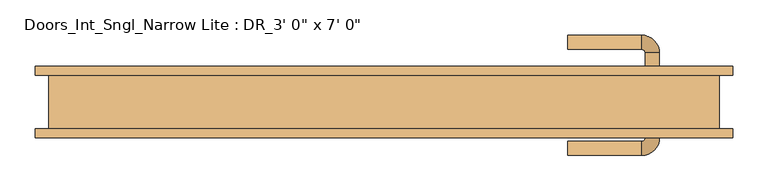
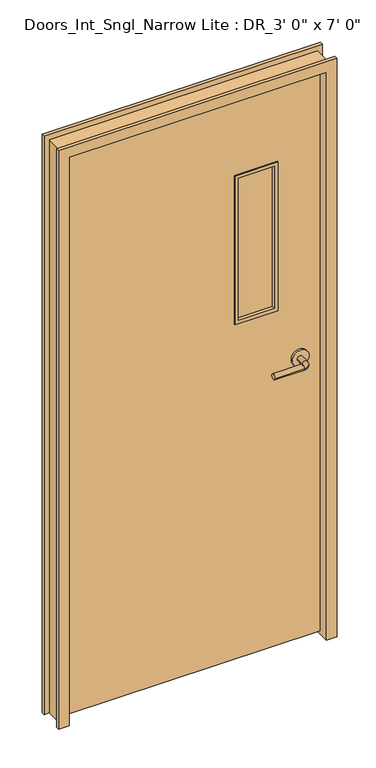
"""IFC4 building model written with IfcOpenShell, lengths in millimetres: door geometry."""

from ifc_helpers import new_model, si_unit, point, frame, frame_2d, origin, place, context, project, spatial, polyline, circle_curve, ellipse_curve, trimmed, segment, composite_curve, outline, extrude, faceted_brep, source, transform, mapped, element, save
from ifc_brep_helpers import plane_surface, cylinder_surface, revolved_surface, advanced_brep


def door_2a92d290(model_context):
    return source(origin(), model_context, "Body", "SolidModel", [
        advanced_brep(
        [(391.0, -20.7, 1066.8), (371.0, -20.7, 1066.8), (391.0, -50.7, 1066.8), (371.0, -50.7, 1066.8), (366.0, -55.7, 1066.8), (366.0, -75.7, 1066.8), (261.0, -75.7, 1066.8), (261.0, -55.7, 1066.8)],
        [
            (0, 1, circle_curve(frame((381.0, -20.7, 1066.8), z_axis=(0.0, 1.0, 0.0), x_axis=(-0.9999999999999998, 0.0, 0.0)), 10.0)),
            (1, 0, circle_curve(frame((381.0, -20.7, 1066.8), z_axis=(0.0, 1.0, 0.0), x_axis=(-0.9999999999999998, 0.0, 0.0)), 10.0)),
            (0, 2),
            (2, 3, circle_curve(frame((381.0, -50.7, 1066.8), z_axis=(0.0, 1.0, 0.0), x_axis=(-0.9999999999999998, 0.0, 0.0)), 10.0)),
            (3, 1),
            (3, 2, circle_curve(frame((381.0, -50.7, 1066.8), z_axis=(0.0, 1.0, 0.0), x_axis=(-0.9999999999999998, 0.0, 0.0)), 10.0)),
            (4, 3, circle_curve(frame((366.0, -50.7, 1066.8), z_axis=(0.0, 0.0, 1.0), x_axis=(0.9999999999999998, 0.0, 0.0)), 5.0)),
            (2, 5, circle_curve(frame((366.0, -50.7, 1066.8), z_axis=(0.0, 0.0, -1.0), x_axis=(0.9999999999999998, 0.0, 0.0)), 25.0)),
            (5, 4, circle_curve(frame((366.0, -65.7, 1066.8), z_axis=(0.9999999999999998, 0.0, 0.0), x_axis=(0.0, 0.9999999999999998, 0.0)), 10.0)),
            (4, 5, circle_curve(frame((366.0, -65.7, 1066.8), z_axis=(0.9999999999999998, 0.0, 0.0), x_axis=(0.0, 0.9999999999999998, 0.0)), 10.0)),
            (6, 7, circle_curve(frame((261.0, -65.7, 1066.8), z_axis=(-1.0, 0.0, 0.0), x_axis=(0.0, 0.9999999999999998, 0.0)), 10.0)),
            (7, 6, circle_curve(frame((261.0, -65.7, 1066.8), z_axis=(-1.0, 0.0, 0.0), x_axis=(0.0, 0.9999999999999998, 0.0)), 10.0)),
            (5, 6),
            (7, 4),
        ],
        [
            plane_surface(frame((381.0, -20.7, 1066.8), z_axis=(0.0, 1.0, 0.0), x_axis=(0.0, 0.0, 1.0))),
            cylinder_surface(frame((381.0, -20.7, 1066.8), z_axis=(0.0, 0.9999999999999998, 0.0), x_axis=(-0.9999999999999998, 0.0, 0.0)), 10.0),
            revolved_surface(trimmed(ellipse_curve(frame((381.0, -50.7, 1066.8), z_axis=(0.0, 0.9999999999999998, 0.0), x_axis=(-0.9999999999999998, 0.0, 0.0)), 10.0, 10.0), [point((391.0, -50.7, 1066.8))], [point((371.0, -50.7, 1066.8))], True, "CARTESIAN"), (366.0, -50.7, 1066.8), (0.0, 0.0, -1.0)),
            revolved_surface(trimmed(ellipse_curve(frame((381.0, -50.7, 1066.8), z_axis=(0.0, 0.9999999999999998, 0.0), x_axis=(-0.9999999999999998, 0.0, 0.0)), 10.0, 10.0), [point((371.0, -50.7, 1066.8))], [point((391.0, -50.7, 1066.8))], True, "CARTESIAN"), (366.0, -50.7, 1066.8), (0.0, 0.0, -1.0)),
            plane_surface(frame((261.0, -65.7, 1066.8), z_axis=(-1.0, 0.0, 0.0), x_axis=(0.0, 0.0, 1.0))),
            cylinder_surface(frame((366.0, -65.7, 1066.8), z_axis=(0.9999999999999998, 0.0, 0.0), x_axis=(0.0, 0.9999999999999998, 0.0)), 10.0),
        ],
        [
            (0, [[1, 2]]),
            (1, [[-1, 3, 4, 5]]),
            (1, [[-2, -5, 6, -3]]),
            (2, [[7, -4, 8, 9]]),
            (3, [[-8, -6, -7, 10]]),
            (4, [[11, 12]]),
            (5, [[-9, 13, -12, 14]]),
            (5, [[-10, -14, -11, -13]]),
        ],
    ),
        extrude(outline(composite_curve([segment(trimmed(circle_curve(frame_2d((1066.8, 383.5)), 30.0), [point((1066.8, 413.5))], [point((1066.8, 353.5))], False, "CARTESIAN"), True, "CONTINUOUS"), segment(trimmed(circle_curve(frame_2d((1066.8, 383.5)), 30.0), [point((1066.8, 353.5))], [point((1066.8, 413.5))], False, "CARTESIAN"), True, "CONTINUOUS")], self_intersect=False)), frame((0.0, -20.7, 0.0), z_axis=(0.0, 1.0, 0.0), x_axis=(0.0, 0.0, 1.0)), (0.0, 0.0, 1.0), 8.0),
        advanced_brep(
        [(391.0, 39.75, 1066.8), (371.0, 39.75, 1066.8), (371.0, 69.75, 1066.8), (391.0, 69.75, 1066.8), (366.0, 74.75, 1066.8), (366.0, 94.75, 1066.8), (261.0, 94.75, 1066.8), (261.0, 74.75, 1066.8)],
        [
            (0, 1, circle_curve(frame((381.0, 39.75, 1066.8), z_axis=(0.0, -1.0, 0.0), x_axis=(-0.9999999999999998, 0.0, 0.0)), 10.0)),
            (1, 0, circle_curve(frame((381.0, 39.75, 1066.8), z_axis=(0.0, -1.0, 0.0), x_axis=(-0.9999999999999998, 0.0, 0.0)), 10.0)),
            (1, 2),
            (2, 3, circle_curve(frame((381.0, 69.75, 1066.8), z_axis=(0.0, -1.0, 0.0), x_axis=(-0.9999999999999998, 0.0, 0.0)), 10.0)),
            (3, 0),
            (3, 2, circle_curve(frame((381.0, 69.75, 1066.8), z_axis=(0.0, -1.0, 0.0), x_axis=(-0.9999999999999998, 0.0, 0.0)), 10.0)),
            (4, 5, circle_curve(frame((366.0, 84.75, 1066.8), z_axis=(0.9999999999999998, 0.0, 0.0), x_axis=(0.0, -0.9999999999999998, 0.0)), 10.0)),
            (5, 3, circle_curve(frame((366.0, 69.75, 1066.8), z_axis=(0.0, 0.0, -1.0), x_axis=(0.9999999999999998, 0.0, 0.0)), 25.0)),
            (2, 4, circle_curve(frame((366.0, 69.75, 1066.8), z_axis=(0.0, 0.0, 1.0), x_axis=(0.9999999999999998, 0.0, 0.0)), 5.0)),
            (5, 4, circle_curve(frame((366.0, 84.75, 1066.8), z_axis=(0.9999999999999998, 0.0, 0.0), x_axis=(0.0, -0.9999999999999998, 0.0)), 10.0)),
            (6, 7, circle_curve(frame((261.0, 84.75, 1066.8), z_axis=(-1.0, 0.0, 0.0), x_axis=(0.0, -0.9999999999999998, 0.0)), 10.0)),
            (7, 6, circle_curve(frame((261.0, 84.75, 1066.8), z_axis=(-1.0, 0.0, 0.0), x_axis=(0.0, -0.9999999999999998, 0.0)), 10.0)),
            (4, 7),
            (6, 5),
        ],
        [
            plane_surface(frame((381.0, 39.75, 1066.8), z_axis=(0.0, -1.0, 0.0), x_axis=(0.0, 0.0, 1.0))),
            cylinder_surface(frame((381.0, 39.75, 1066.8), z_axis=(0.0, -0.9999999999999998, 0.0), x_axis=(-0.9999999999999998, 0.0, 0.0)), 10.0),
            revolved_surface(trimmed(ellipse_curve(frame((381.0, 69.75, 1066.8), z_axis=(0.0, 0.9999999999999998, 0.0), x_axis=(-0.9999999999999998, 0.0, 0.0)), 10.0, 10.0), [point((391.0, 69.75, 1066.8))], [point((371.0, 69.75, 1066.8))], True, "CARTESIAN"), (366.0, 69.75, 1066.8), (0.0, 0.0, -1.0)),
            revolved_surface(trimmed(ellipse_curve(frame((381.0, 69.75, 1066.8), z_axis=(0.0, 0.9999999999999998, 0.0), x_axis=(-0.9999999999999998, 0.0, 0.0)), 10.0, 10.0), [point((371.0, 69.75, 1066.8))], [point((391.0, 69.75, 1066.8))], True, "CARTESIAN"), (366.0, 69.75, 1066.8), (0.0, 0.0, -1.0)),
            plane_surface(frame((261.0, 84.75, 1066.8), z_axis=(-1.0, 0.0, 0.0), x_axis=(0.0, 0.0, 1.0))),
            cylinder_surface(frame((366.0, 84.75, 1066.8), z_axis=(0.9999999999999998, 0.0, 0.0), x_axis=(0.0, -0.9999999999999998, 0.0)), 10.0),
        ],
        [
            (0, [[1, 2]]),
            (1, [[3, 4, 5, -2]]),
            (1, [[-5, 6, -3, -1]]),
            (2, [[7, 8, -4, 9]]),
            (3, [[10, -9, -6, -8]]),
            (4, [[11, 12]]),
            (5, [[13, -11, 14, -7]]),
            (5, [[-14, -12, -13, -10]]),
        ],
    ),
        extrude(outline(composite_curve([segment(trimmed(circle_curve(frame_2d((1066.8, 383.5)), 30.0), [point((1066.8, 413.5))], [point((1066.8, 353.5))], False, "CARTESIAN"), True, "CONTINUOUS"), segment(trimmed(circle_curve(frame_2d((1066.8, 383.5)), 30.0), [point((1066.8, 353.5))], [point((1066.8, 413.5))], False, "CARTESIAN"), True, "CONTINUOUS")], self_intersect=False)), frame((0.0, 31.75, 0.0), z_axis=(0.0, 1.0, 0.0), x_axis=(0.0, 0.0, 1.0)), (0.0, 0.0, 1.0), 8.0),
        extrude(outline(polyline([(292.1, 22.225), (292.1, -3.175), (165.1, -3.175), (165.1, 22.225), (292.1, 22.225)])), frame((0.0, 0.0, 1282.7), z_axis=(0.0, 0.0, 1.0), x_axis=(1.0, 0.0, 0.0)), (0.0, 0.0, 1.0), 533.4),
        extrude(outline(polyline([(1270.0, 152.4), (1270.0, 304.8), (1828.8, 304.8), (1828.8, 152.4), (1270.0, 152.4)]), holes=[polyline([(1282.7, 165.1), (1816.1, 165.1), (1816.1, 292.1), (1282.7, 292.1), (1282.7, 165.1)])]), frame((0.0, -15.875, 0.0), z_axis=(0.0, 1.0, 0.0), x_axis=(0.0, 0.0, 1.0)), (0.0, 0.0, 1.0), 50.8),
        extrude(outline(polyline([(2133.6, 457.2), (2133.6, -457.2), (12.7, -457.2), (12.7, 457.2), (2133.6, 457.2)]), holes=[polyline([(1270.0, 152.4), (1828.8, 152.4), (1828.8, 304.8), (1270.0, 304.8), (1270.0, 152.4)])]), frame((0.0, -12.7, 0.0), z_axis=(0.0, 1.0, 0.0), x_axis=(0.0, 0.0, 1.0)), (0.0, 0.0, 1.0), 44.45),
        faceted_brep([(-457.2, 50.8, 0.0), (-457.2, -50.8, 0.0), (-495.3, -50.8, 0.0), (-495.3, -38.1, 0.0), (-476.25, -38.1, 0.0), (-476.25, 38.1, 0.0), (-495.3, 38.1, 0.0), (-495.3, 50.8, 0.0), (-495.3, 50.8, 2171.7), (495.3, 50.8, 2171.7), (495.3, 50.8, 0.0), (457.2, 50.8, 0.0), (457.2, 50.8, 2133.6), (-457.2, 50.8, 2133.6), (-495.3, 38.1, 2171.7), (-476.25, 38.1, 2152.65), (476.25, 38.1, 2152.65), (476.25, 38.1, 0.0), (495.3, 38.1, 0.0), (495.3, 38.1, 2171.7), (-476.25, -38.1, 2152.65), (-495.3, -38.1, 2171.7), (495.3, -38.1, 2171.7), (495.3, -38.1, 0.0), (476.25, -38.1, 0.0), (476.25, -38.1, 2152.65), (-495.3, -50.8, 2171.7), (-457.2, -50.8, 2133.6), (457.2, -50.8, 2133.6), (457.2, -50.8, 0.0), (495.3, -50.8, 0.0), (495.3, -50.8, 2171.7)], [[[0, 1, 2, 3, 4, 5, 6, 7]], [[7, 8, 9, 10, 11, 12, 13, 0]], [[6, 14, 8, 7]], [[5, 15, 16, 17, 18, 19, 14, 6]], [[4, 20, 15, 5]], [[3, 21, 22, 23, 24, 25, 20, 4]], [[2, 26, 21, 3]], [[1, 27, 28, 29, 30, 31, 26, 2]], [[0, 13, 27, 1]], [[12, 11, 29, 28]], [[11, 10, 18, 17, 24, 23, 30, 29]], [[19, 18, 10, 9]], [[31, 30, 23, 22]], [[25, 24, 17, 16]], [[20, 25, 16, 15]], [[13, 12, 28, 27]], [[14, 19, 9, 8]], [[26, 31, 22, 21]]]),
    ])


if __name__ == "__main__":
    model = new_model("IFC4")
    model_context = context("Model", 3, world=origin())
    ifc_project = project(units=[si_unit("LENGTHUNIT", "METRE", prefix="MILLI")], contexts=[model_context])
    site = spatial("IfcSite", under=ifc_project)
    building = spatial("IfcBuilding", under=site)
    placement = place(None, origin())
    door_shape = door_2a92d290(model_context)
    element("IfcDoor", 1, ObjectType="Doors_Int_Sngl_Narrow Lite : DR_3' 0\" x 7' 0\"", at=placement, inside=building, context=model_context, shape_type="MappedRepresentation", body=[
        mapped(door_shape, transform((0.0, 0.0, 0.0), x_axis=(1.0, 0.0, 0.0), y_axis=(0.0, 1.0, 0.0), z_axis=(0.0, 0.0, 1.0))),
    ])
    save(model, "model.ifc")
